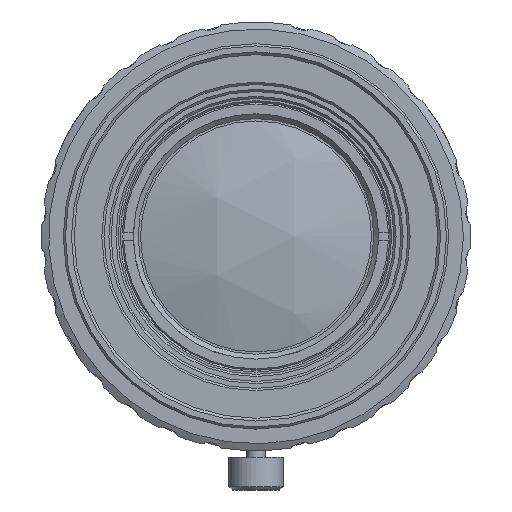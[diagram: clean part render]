
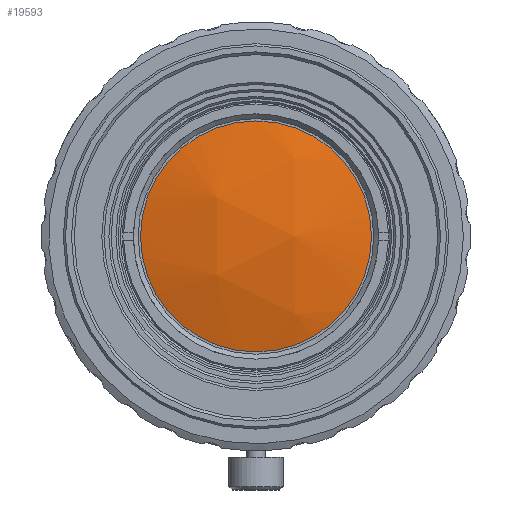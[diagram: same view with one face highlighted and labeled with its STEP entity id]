
A CAD part, front view. The second image highlights one B-rep face of the part: STEP entity #19593.
In plain terms, the highlighted spherical face has radius 35.677 mm.
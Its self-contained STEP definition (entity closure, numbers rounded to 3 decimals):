
#41=SPHERICAL_SURFACE('',#21090,35.677);
#2710=CIRCLE('',#20538,10.635);
#6635=ORIENTED_EDGE('',*,*,#7835,.F.);
#7835=EDGE_CURVE('',#9368,#9368,#2710,.T.);
#9368=VERTEX_POINT('',#28708);
#11386=EDGE_LOOP('',(#6635));
#12524=FACE_BOUND('',#11386,.T.);
#19593=ADVANCED_FACE('',(#12524),#41,.T.);
#20538=AXIS2_PLACEMENT_3D('',#28707,#23358,#23359);
#21090=AXIS2_PLACEMENT_3D('',#30950,#24830,#24831);
#23358=DIRECTION('',(0.,1.,0.));
#23359=DIRECTION('',(0.,0.,1.));
#24830=DIRECTION('',(-1.,0.,0.));
#24831=DIRECTION('',(0.,0.,1.));
#28707=CARTESIAN_POINT('',(0.,-66.07,0.));
#28708=CARTESIAN_POINT('',(0.,-66.07,10.635));
#30950=CARTESIAN_POINT('',(0.,-32.015,0.));
